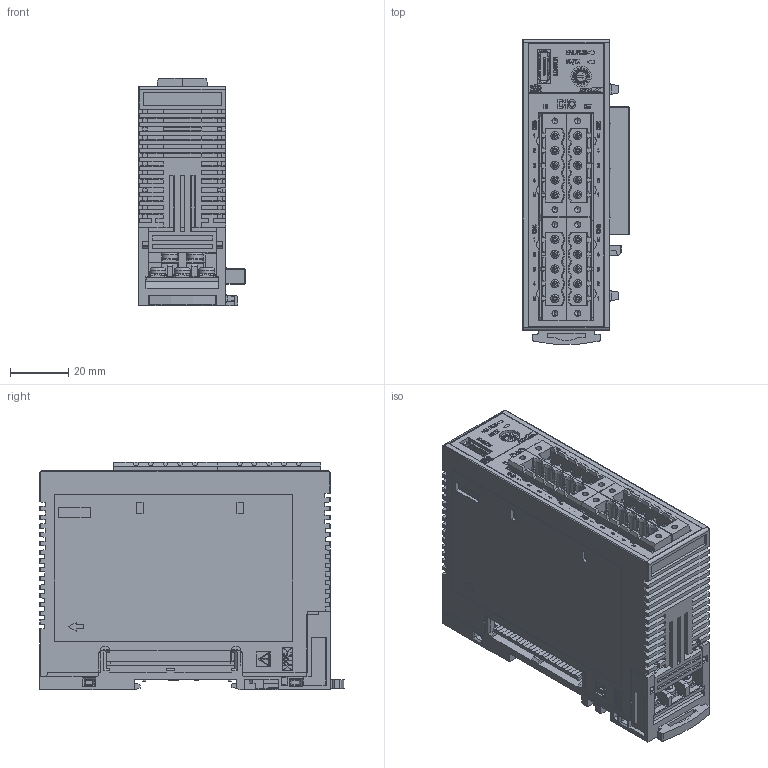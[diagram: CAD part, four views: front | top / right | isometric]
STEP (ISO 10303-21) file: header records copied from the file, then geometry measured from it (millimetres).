
FILE_DESCRIPTION (( 'STEP AP203' ), '1' );
FILE_NAME ('SRZ(Z-DIO-AC）_WEB.STEP', '2020-03-31T10:29:25', ( '' ), ( '' ), 'SwSTEP 2.0', 'SolidWorks 2018', '' );
FILE_SCHEMA (( 'CONFIG_CONTROL_DESIGN' ));
Products named in the file (3): SRZ(Z-DIO)(基本設計-コネクタ)_WEB_デフォルト; SRZ(Z-DIO-AC）_WEB; KSRZ-54(1)_WEB_デフォルト
Assembly tree (2 placements, depth 2):
  SRZ(Z-DIO-AC）_WEB
    SRZ(Z-DIO)(基本設計-コネクタ)_WEB_デフォルト
    KSRZ-54(1)_WEB_デフォルト
Bounding box: 36.65 x 104.76 x 78.25 mm (x, y, z)
Volume: 170411.4 mm3; surface area: 58158.9 mm2
Topology: 3 solids, 22 shells, 4689 faces, 12469 edges, 8070 vertices
Faces by surface type: plane 3409, bspline 689, cylinder 429, cone 80, torus 58, sphere 24
Entity records: 164466 total; most frequent: CARTESIAN_POINT 52392, ORIENTED_EDGE 24842, DIRECTION 19823, EDGE_CURVE 12421, LINE 9845, VECTOR 9845, VERTEX_POINT 8062, EDGE_LOOP 5063
